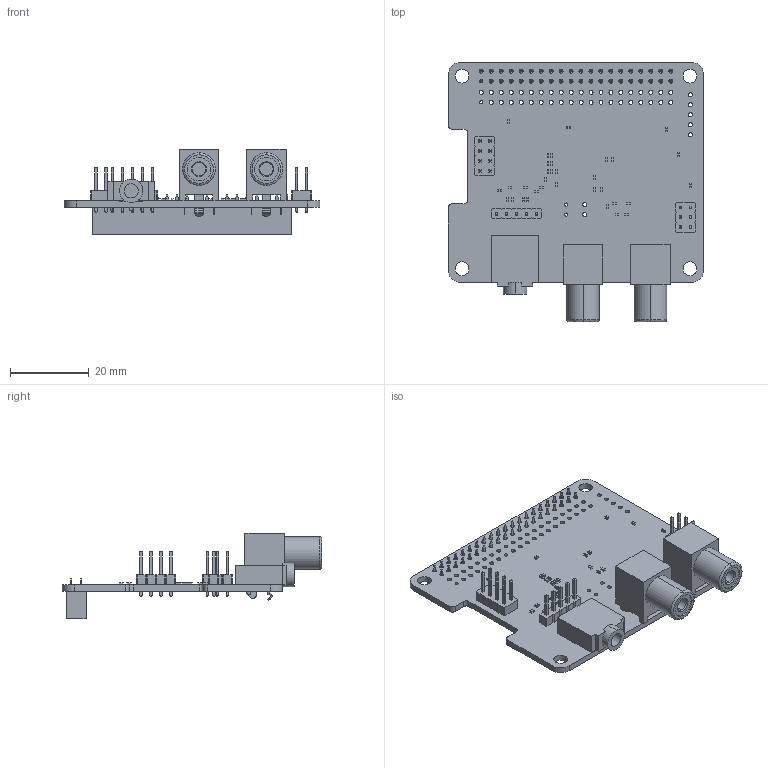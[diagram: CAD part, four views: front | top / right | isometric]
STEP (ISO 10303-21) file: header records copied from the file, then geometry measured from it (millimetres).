
FILE_DESCRIPTION(('KiCad electronic assembly'),'2;1');
FILE_NAME('hifiberry-adc-dac-pro.step','2019-07-26T08:32:15',( 'An Author'),('A Company'),'Open CASCADE STEP processor 6.9', 'KiCad to STEP converter','Unknown');
FILE_SCHEMA(('AUTOMOTIVE_DESIGN { 1 0 10303 214 1 1 1 1 }'));
Length unit declared in the file: millimetre
Products named in the file (16): Open CASCADE STEP translator 6.9 1; PinHeader_2x04_P2.54mm_Vertical; SOLID; C_0402; 35RAPC3BHN2; PinSocket_2x20_P2.54mm_Vertical; pjran1x1_Series; PinHeader_2x03_P2.54mm_Vertical; PinHeader_1x05_P2.54mm_Vertical; COMPOUND
Assembly tree (48 placements, depth 3):
  Open CASCADE STEP translator 6.9 1
    PinHeader_2x04_P2.54mm_Vertical
      SOLID
    C_0402  x33
      SOLID
    35RAPC3BHN2
      SOLID
    PinSocket_2x20_P2.54mm_Vertical
      SOLID
    pjran1x1_Series  x2
      SOLID
    PinHeader_2x03_P2.54mm_Vertical
      SOLID
    PinHeader_1x05_P2.54mm_Vertical
      SOLID
    COMPOUND
Bounding box: 65 x 65.97 x 21.64 mm (x, y, z)
Volume: 11438.5 mm3; surface area: 13917.2 mm2
Topology: 41 solids, 41 shells, 3095 faces, 7964 edges, 5202 vertices
Faces by surface type: plane 2496, cylinder 591, cone 4, torus 4
Full cylindrical faces by diameter (mm): 0.813 x4, 1 x19, 1.016 x85, 1.3 x5, 1.6 x5, 3.5 x4
Entity records: 149305 total; most frequent: CARTESIAN_POINT 24438, DIRECTION 20941, LINE 15725, VECTOR 15725, ORIENTED_EDGE 11010, PCURVE 11010, DEFINITIONAL_REPRESENTATION 11010, EDGE_CURVE 5505
